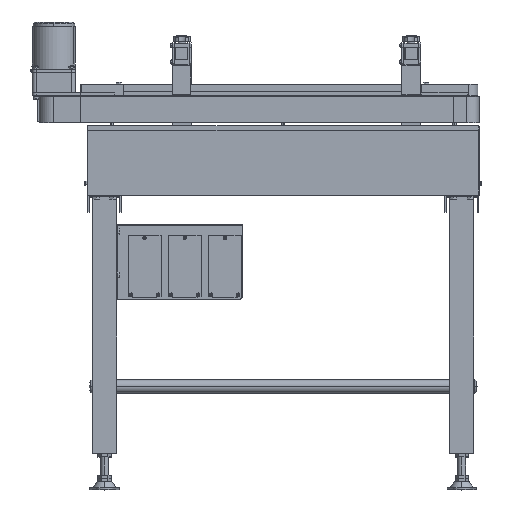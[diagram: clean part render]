
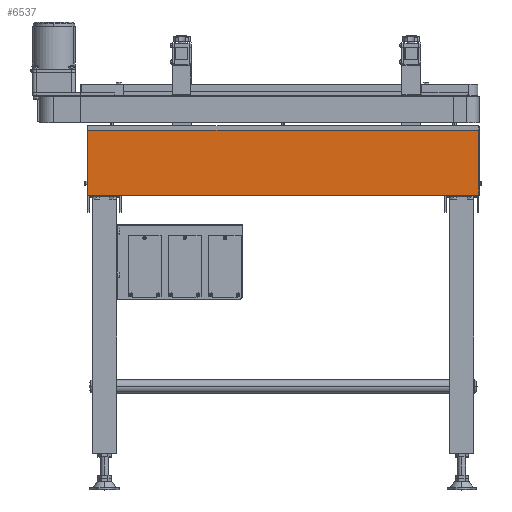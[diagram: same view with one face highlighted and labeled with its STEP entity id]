
A CAD part, top view. The second image highlights one B-rep face of the part: STEP entity #6537.
In plain terms, the highlighted planar face has unit normal (0, 0, 1).
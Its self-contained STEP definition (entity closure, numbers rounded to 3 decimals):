
#6537=ADVANCED_FACE('',(#38738),#38737,.F.);
#38737=PLANE('',#58824);
#38738=FACE_OUTER_BOUND('',#58825,.T.);
#58821=CARTESIAN_POINT('',(-10.,-150.,300.));
#58822=DIRECTION('',(0.,0.,-1.));
#58823=DIRECTION('',(0.,1.,0.));
#58824=AXIS2_PLACEMENT_3D('',#58821,#58822,#58823);
#58825=EDGE_LOOP('',(#74771,#74772,#74773,#74774));
#74771=ORIENTED_EDGE('',*,*,#83085,.F.);
#74772=ORIENTED_EDGE('',*,*,#82779,.T.);
#74773=ORIENTED_EDGE('',*,*,#83112,.T.);
#74774=ORIENTED_EDGE('',*,*,#83113,.F.);
#82779=EDGE_CURVE('',#133201,#133202,#133203,.T.);
#83085=EDGE_CURVE('',#133201,#135236,#135237,.T.);
#83112=EDGE_CURVE('',#133202,#135416,#135417,.T.);
#83113=EDGE_CURVE('',#135236,#135416,#135423,.T.);
#133201=VERTEX_POINT('',#167055);
#133202=VERTEX_POINT('',#167056);
#133203=LINE('',#167057,#167058);
#135236=VERTEX_POINT('',#168172);
#135237=LINE('',#168173,#168174);
#135416=VERTEX_POINT('',#168271);
#135417=LINE('',#168272,#168273);
#135423=LINE('',#168275,#168276);
#167055=CARTESIAN_POINT('',(810.,-6.,300.));
#167056=CARTESIAN_POINT('',(0.,-6.,300.));
#167057=CARTESIAN_POINT('',(810.,-6.,300.));
#167058=VECTOR('',#167059,810.);
#167059=DIRECTION('',(-1.,0.,0.));
#168172=CARTESIAN_POINT('',(810.,-140.,300.));
#168173=CARTESIAN_POINT('',(810.,-6.,300.));
#168174=VECTOR('',#168175,134.);
#168175=DIRECTION('',(0.,-1.,0.));
#168271=CARTESIAN_POINT('',(0.,-140.,300.));
#168272=CARTESIAN_POINT('',(0.,-6.,300.));
#168273=VECTOR('',#168274,134.);
#168274=DIRECTION('',(0.,-1.,0.));
#168275=CARTESIAN_POINT('',(810.,-140.,300.));
#168276=VECTOR('',#168277,810.);
#168277=DIRECTION('',(-1.,0.,0.));
